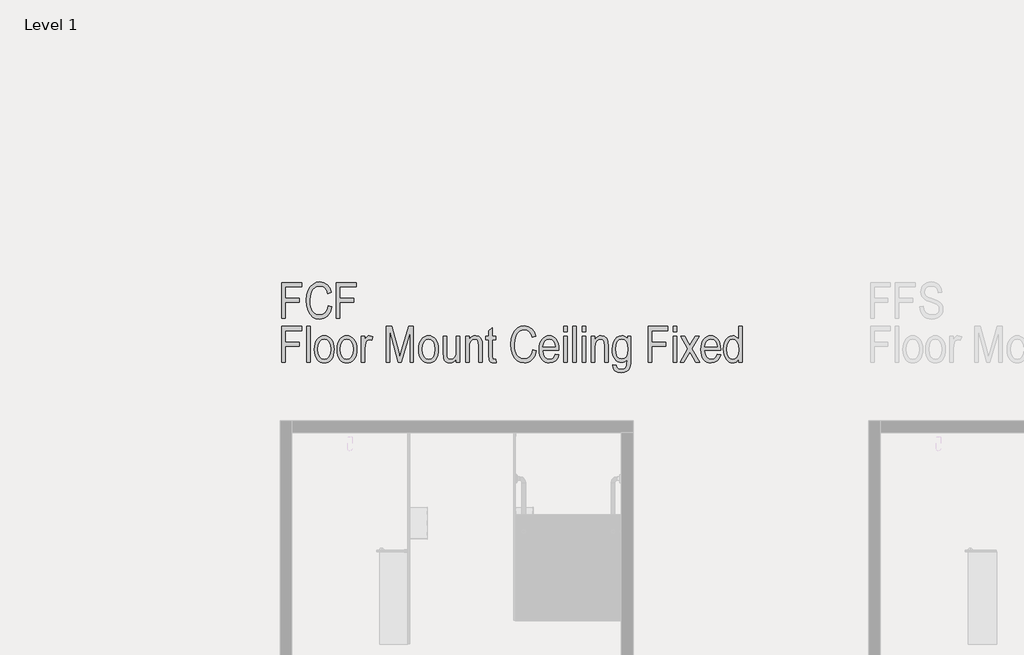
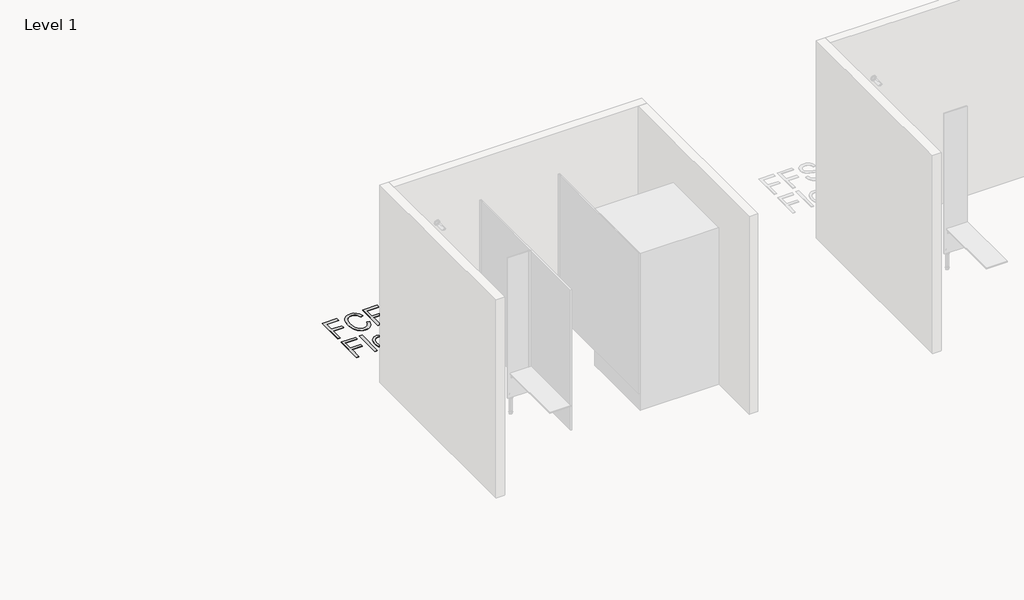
# One storey, part 10 of 21: 1 proxy.
"""IFC4 building model written with IfcOpenShell, lengths in millimetres."""

from ifc_helpers import new_model, si_unit, origin, origin_with_axes, place, context, project, spatial, polyline, outline, extrude, element, save

model = new_model("IFC4")

# Units and contexts
model_context = context("Model", 3, world=origin())
ifc_project = project(units=[si_unit("LENGTHUNIT", "METRE", prefix="MILLI")], contexts=[model_context])

# Site, building, storey
site = spatial("IfcSite", under=ifc_project)
building = spatial("IfcBuilding", under=site)
storey = spatial("IfcBuildingStorey", under=building, Name="Level 1", Elevation=0.0)

# Proxy
placement = place(None, origin())
element("IfcBuildingElementProxy", 1, Name="Arial Narrow-300mm", ObjectType="Arial Narrow-300mm", at=placement, inside=storey, context=model_context, shape_type="SweptSolid", body=[
    extrude(outline(polyline([(-11218.8829157, 11023.6753804), (-11218.8829157, 11328.8527498), (-11051.5275841, 11328.8527498), (-11051.5275841, 11294.3972403), (-11189.3496219, 11294.3972403), (-11189.3496219, 11195.9529276), (-11071.2164466, 11195.9529276), (-11071.2164466, 11161.4974182), (-11189.3496219, 11161.4974182), (-11189.3496219, 11023.6753804), (-11218.8829157, 11023.6753804)])), origin_with_axes(), (0.0, 0.0, 1.0), 5.0),
    extrude(outline(polyline([(-10825.1056649, 11131.9641244), (-10795.5723711, 11122.1196931), (-10810.3967002, 11076.6564944), (-10820.8516016, 11058.8783552), (-10833.3349942, 11044.4025228), (-10847.5680806, 11033.1809287), (-10863.2720635, 11025.1655043), (-10880.4469428, 11020.3562496), (-10899.0927187, 11018.7531648), (-10930.6256626, 11022.9831938), (-10957.2363908, 11035.673281), (-10979.1940872, 11057.7175006), (-10996.7679352, 11090.0099271), (-11008.3043781, 11130.8008664), (-11012.149859, 11178.3406248), (-11008.3139918, 11224.7651938), (-10996.80639, 11263.4411186), (-10978.7518568, 11293.9838511), (-10955.2751955, 11316.0088434), (-10927.5588915, 11329.3334349), (-10896.7854301, 11333.7749654), (-10863.9065678, 11328.1509495), (-10836.0268308, 11311.2789018), (-10814.4536826, 11283.5049155), (-10800.4945867, 11245.175084), (-10830.0278805, 11235.3306527), (-10840.6125669, 11263.3257541), (-10855.4465097, 11283.3222552), (-10874.529709, 11295.3201558), (-10897.8621647, 11299.319456), (-10921.5407138, 11296.1277068), (-10941.8160122, 11286.5524592), (-10958.524627, 11270.2187788), (-10971.5031252, 11246.7517312), (-10979.8382052, 11216.132089), (-10982.6165652, 11178.3406248), (-10981.203351, 11149.0284462), (-10976.9637082, 11123.6194307), (-10969.8976369, 11102.1135784), (-10960.0051371, 11084.5108893), (-10947.7717008, 11070.8161702), (-10933.6828199, 11061.034228), (-10917.7384945, 11055.1650627), (-10899.9387245, 11053.2086742), (-10874.0874787, 11058.092435), (-10852.0624865, 11072.7437175), (-10835.2673483, 11097.3163409), (-10825.1056649, 11131.9641244)])), origin_with_axes(), (0.0, 0.0, 1.0), 5.0),
    extrude(outline(polyline([(-10756.194646, 11023.6753804), (-10756.194646, 11328.8527498), (-10588.8393144, 11328.8527498), (-10588.8393144, 11294.3972403), (-10726.6613522, 11294.3972403), (-10726.6613522, 11195.9529276), (-10608.5281769, 11195.9529276), (-10608.5281769, 11161.4974182), (-10726.6613522, 11161.4974182), (-10726.6613522, 11023.6753804), (-10756.194646, 11023.6753804)])), origin_with_axes(), (0.0, 0.0, 1.0), 5.0),
    extrude(outline(polyline([(-11218.8829157, 10650.573168), (-11218.8829157, 10955.7505374), (-11051.5275841, 10955.7505374), (-11051.5275841, 10921.2950279), (-11189.3496219, 10921.2950279), (-11189.3496219, 10822.8507152), (-11071.2164466, 10822.8507152), (-11071.2164466, 10788.3952058), (-11189.3496219, 10788.3952058), (-11189.3496219, 10650.573168), (-11218.8829157, 10650.573168)])), origin_with_axes(), (0.0, 0.0, 1.0), 5.0),
    extrude(outline(polyline([(-11007.2276434, 10650.573168), (-11007.2276434, 10955.7505374), (-10977.6943496, 10955.7505374), (-10977.6943496, 10650.573168), (-11007.2276434, 10650.573168)])), origin_with_axes(), (0.0, 0.0, 1.0), 5.0),
    extrude(outline(polyline([(-10943.2388401, 10761.3230198), (-10941.75833, 10788.2149489), (-10937.3167994, 10811.5930697), (-10929.9142486, 10831.4573823), (-10919.5506774, 10847.8078867), (-10906.9182724, 10860.5772869), (-10892.7092203, 10869.6982871), (-10876.9235209, 10875.1708872), (-10859.5611743, 10876.9950872), (-10842.448784, 10875.1708872), (-10826.7976765, 10869.6982871), (-10812.6078518, 10860.5772869), (-10799.8793098, 10847.8078867), (-10789.3811467, 10831.6015879), (-10781.8824588, 10812.1698919), (-10777.3832461, 10789.5127987), (-10775.8835085, 10763.6303084), (-10777.3568084, 10735.7289405), (-10781.7767081, 10711.629792), (-10789.1432076, 10691.3328628), (-10799.4563069, 10674.8381529), (-10812.0526604, 10662.0687527), (-10826.2689229, 10652.9477525), (-10842.1050942, 10647.4751524), (-10859.5611743, 10645.6509524), (-10876.7672982, 10647.4799593), (-10892.4688777, 10652.9669799), (-10906.6659127, 10662.1120143), (-10919.3584033, 10674.9150625), (-10929.8060944, 10691.2896011), (-10937.2687309, 10711.1491069), (-10941.7463128, 10734.4935798), (-10943.2388401, 10761.3230198)]), holes=[polyline([(-10913.7055463, 10761.3999294), (-10909.7543146, 10723.3681227), (-10897.9006196, 10696.4882107), (-10880.2017934, 10680.5102373), (-10858.7151685, 10675.1842462), (-10838.3533468, 10680.5583058), (-10821.1063647, 10696.6804848), (-10809.3391929, 10723.6084652), (-10805.4168023, 10761.3999294), (-10809.368034, 10799.3163717), (-10821.2217291, 10826.1578289), (-10838.9205553, 10842.1358023), (-10860.4071801, 10847.4617934), (-10880.9132074, 10842.1069612), (-10898.1313484, 10826.0424644), (-10909.8119968, 10799.1721662), (-10913.7055463, 10761.3999294)])]), origin_with_axes(), (0.0, 0.0, 1.0), 5.0),
    extrude(outline(polyline([(-10751.2724304, 10761.3230198), (-10749.7919202, 10788.2149489), (-10745.3503897, 10811.5930697), (-10737.9478388, 10831.4573823), (-10727.5842676, 10847.8078867), (-10714.9518627, 10860.5772869), (-10700.7428105, 10869.6982871), (-10684.9571111, 10875.1708872), (-10667.5947646, 10876.9950872), (-10650.4823743, 10875.1708872), (-10634.8312667, 10869.6982871), (-10620.641442, 10860.5772869), (-10607.9129, 10847.8078867), (-10597.414737, 10831.6015879), (-10589.9160491, 10812.1698919), (-10585.4168363, 10789.5127987), (-10583.9170988, 10763.6303084), (-10585.3903987, 10735.7289405), (-10589.8102984, 10711.629792), (-10597.1767978, 10691.3328628), (-10607.4898971, 10674.8381529), (-10620.0862507, 10662.0687527), (-10634.3025131, 10652.9477525), (-10650.1386844, 10647.4751524), (-10667.5947646, 10645.6509524), (-10684.8008885, 10647.4799593), (-10700.5024679, 10652.9669799), (-10714.699503, 10662.1120143), (-10727.3919936, 10674.9150625), (-10737.8396847, 10691.2896011), (-10745.3023212, 10711.1491069), (-10749.7799031, 10734.4935798), (-10751.2724304, 10761.3230198)]), holes=[polyline([(-10721.7391366, 10761.3999294), (-10717.7879049, 10723.3681227), (-10705.9342098, 10696.4882107), (-10688.2353836, 10680.5102373), (-10666.7487588, 10675.1842462), (-10646.386937, 10680.5583058), (-10629.1399549, 10696.6804848), (-10617.3727832, 10723.6084652), (-10613.4503926, 10761.3999294), (-10617.4016243, 10799.3163717), (-10629.2553193, 10826.1578289), (-10646.9541455, 10842.1358023), (-10668.4407704, 10847.4617934), (-10688.9467976, 10842.1069612), (-10706.1649386, 10826.0424644), (-10717.8455871, 10799.1721662), (-10721.7391366, 10761.3999294)])]), origin_with_axes(), (0.0, 0.0, 1.0), 5.0),
    extrude(outline(polyline([(-10544.5393737, 10650.573168), (-10544.5393737, 10872.0728716), (-10515.0060799, 10872.0728716), (-10515.0060799, 10842.693397), (-10505.1231938, 10859.9596065), (-10496.0863135, 10870.2270407), (-10486.9340688, 10875.3030756), (-10476.7050895, 10876.9950872), (-10461.5538945, 10874.5339794), (-10446.095061, 10867.1506559), (-10455.9394923, 10837.6173621), (-10478.8585588, 10842.5395778), (-10488.5011023, 10840.7802702), (-10497.2784126, 10835.5023476), (-10504.3829387, 10827.0711306), (-10509.0071296, 10815.8519399), (-10515.0060799, 10769.167801), (-10515.0060799, 10650.573168), (-10544.5393737, 10650.573168)])), origin_with_axes(), (0.0, 0.0, 1.0), 5.0),
    extrude(outline(polyline([(-10332.8841014, 10650.573168), (-10332.8841014, 10955.7505374), (-10286.0461432, 10955.7505374), (-10228.6715672, 10739.6345072), (-10217.212034, 10694.4885606), (-10203.8297602, 10743.4030785), (-10143.7633475, 10955.7505374), (-10101.5399665, 10955.7505374), (-10101.5399665, 10650.573168), (-10131.0732604, 10650.573168), (-10131.0732604, 10910.8353197), (-10204.2912179, 10650.573168), (-10230.9019462, 10650.573168), (-10303.3508076, 10925.4481474), (-10303.3508076, 10650.573168), (-10332.8841014, 10650.573168)])), origin_with_axes(), (0.0, 0.0, 1.0), 5.0),
    extrude(outline(polyline([(-10057.2400258, 10761.3230198), (-10055.7595157, 10788.2149489), (-10051.3179851, 10811.5930697), (-10043.9154343, 10831.4573823), (-10033.5518631, 10847.8078867), (-10020.9194581, 10860.5772869), (-10006.7104059, 10869.6982871), (-9990.9247066, 10875.1708872), (-9973.56236, 10876.9950872), (-9956.4499697, 10875.1708872), (-9940.7988622, 10869.6982871), (-9926.6090374, 10860.5772869), (-9913.8804955, 10847.8078867), (-9903.3823324, 10831.6015879), (-9895.8836445, 10812.1698919), (-9891.3844318, 10789.5127987), (-9889.8846942, 10763.6303084), (-9891.3579941, 10735.7289405), (-9895.7778938, 10711.629792), (-9903.1443933, 10691.3328628), (-9913.4574925, 10674.8381529), (-9926.0538461, 10662.0687527), (-9940.2701086, 10652.9477525), (-9956.1062799, 10647.4751524), (-9973.56236, 10645.6509524), (-9990.7684839, 10647.4799593), (-10006.4700634, 10652.9669799), (-10020.6670984, 10662.1120143), (-10033.359589, 10674.9150625), (-10043.8072801, 10691.2896011), (-10051.2699166, 10711.1491069), (-10055.7474985, 10734.4935798), (-10057.2400258, 10761.3230198)]), holes=[polyline([(-10027.706732, 10761.3999294), (-10023.7555003, 10723.3681227), (-10011.9018052, 10696.4882107), (-9994.2029791, 10680.5102373), (-9972.7163542, 10675.1842462), (-9952.3545325, 10680.5583058), (-9935.1075504, 10696.6804848), (-9923.3403786, 10723.6084652), (-9919.417988, 10761.3999294), (-9923.3692197, 10799.3163717), (-9935.2229148, 10826.1578289), (-9952.921741, 10842.1358023), (-9974.4083658, 10847.4617934), (-9994.9143931, 10842.1069612), (-10012.1325341, 10826.0424644), (-10023.8131825, 10799.1721662), (-10027.706732, 10761.3999294)])]), origin_with_axes(), (0.0, 0.0, 1.0), 5.0),
    extrude(outline(polyline([(-9737.2960095, 10650.573168), (-9737.2960095, 10680.4910099), (-9748.2556303, 10665.272519), (-9760.9841723, 10654.3801942), (-9775.4816355, 10647.8332628), (-9791.74802, 10645.6509524), (-9810.5716493, 10648.5446768), (-9826.4342583, 10657.2258501), (-9838.4321589, 10670.3389402), (-9845.6616631, 10686.528415), (-9850.5069692, 10734.8661108), (-9850.5069692, 10872.0728716), (-9820.9736753, 10872.0728716), (-9820.9736753, 10747.4792883), (-9817.6281069, 10701.0643331), (-9812.8500968, 10690.4988741), (-9805.2072034, 10682.2599312), (-9795.497364, 10676.9531674), (-9784.5185158, 10675.1842462), (-9764.9065629, 10679.7795959), (-9749.1400909, 10693.5656452), (-9740.2570299, 10716.023254), (-9737.2960095, 10751.7093174), (-9737.2960095, 10872.0728716), (-9707.7627157, 10872.0728716), (-9707.7627157, 10650.573168), (-9737.2960095, 10650.573168)])), origin_with_axes(), (0.0, 0.0, 1.0), 5.0),
    extrude(outline(polyline([(-9658.5405594, 10650.573168), (-9658.5405594, 10872.0728716), (-9629.0072656, 10872.0728716), (-9629.0072656, 10843.4624932), (-9618.4898751, 10858.1810716), (-9605.8574702, 10868.6503935), (-9591.1677329, 10874.9089138), (-9574.4783455, 10876.9950872), (-9548.9828067, 10871.2653206), (-9530.0630404, 10856.2679448), (-9519.3341485, 10832.195234), (-9515.796306, 10786.7031942), (-9515.796306, 10650.573168), (-9545.3295998, 10650.573168), (-9545.3295998, 10787.3184711), (-9549.3673548, 10823.5429018), (-9554.5491404, 10833.6949716), (-9562.0189872, 10841.2321142), (-9571.3250511, 10845.9043736), (-9582.0154882, 10847.4617934), (-9601.3005752, 10843.2798329), (-9616.2402688, 10830.7339512), (-9625.8155164, 10808.0359998), (-9629.0072656, 10773.39783), (-9629.0072656, 10650.573168), (-9658.5405594, 10650.573168)])), origin_with_axes(), (0.0, 0.0, 1.0), 5.0),
    extrude(outline(polyline([(-9402.5853464, 10675.1842462), (-9397.6631307, 10645.6509524), (-9419.9669203, 10645.6509524), (-9434.0029259, 10647.2564407), (-9445.0394562, 10652.0729056), (-9453.0765114, 10659.6773442), (-9458.1140915, 10669.6467536), (-9461.651934, 10714.0236039), (-9461.651934, 10842.5395778), (-9486.2630122, 10842.5395778), (-9486.2630122, 10872.0728716), (-9461.651934, 10872.0728716), (-9461.651934, 10921.2950279), (-9432.1186402, 10945.9061061), (-9432.1186402, 10872.0728716), (-9402.5853464, 10872.0728716), (-9402.5853464, 10842.5395778), (-9432.1186402, 10842.5395778), (-9432.1186402, 10707.2555574), (-9429.5037131, 10683.0290273), (-9424.1584946, 10677.1454415), (-9415.5061624, 10675.1842462), (-9402.5853464, 10675.1842462)])), origin_with_axes(), (0.0, 0.0, 1.0), 5.0),
    extrude(outline(polyline([(-9087.5635457, 10758.861912), (-9058.0302519, 10749.0174807), (-9072.854581, 10703.554282), (-9083.3094824, 10685.7761428), (-9095.792875, 10671.3003104), (-9110.0259614, 10660.0787163), (-9125.7299443, 10652.0632919), (-9142.9048237, 10647.2540372), (-9161.5505995, 10645.6509524), (-9193.0835434, 10649.8809814), (-9219.6942717, 10662.5710686), (-9241.651968, 10684.6152882), (-9259.225816, 10716.9077147), (-9270.7622589, 10757.698654), (-9274.6077399, 10805.2384124), (-9270.7718726, 10851.6629814), (-9259.2642708, 10890.3389062), (-9241.2097377, 10920.8816387), (-9217.7330764, 10942.906631), (-9190.0167723, 10956.2312225), (-9159.2433109, 10960.672753), (-9126.3644487, 10955.0487371), (-9098.4847117, 10938.1766894), (-9076.9115635, 10910.4027031), (-9062.9524676, 10872.0728716), (-9092.4857614, 10862.2284403), (-9103.0704477, 10890.2235417), (-9117.9043905, 10910.2200428), (-9136.9875898, 10922.2179434), (-9160.3200456, 10926.2172436), (-9183.9985946, 10923.0254944), (-9204.273893, 10913.4502468), (-9220.9825078, 10897.1165664), (-9233.9610061, 10873.6495188), (-9242.296086, 10843.0298766), (-9245.074446, 10805.2384124), (-9243.6612318, 10775.9262338), (-9239.421589, 10750.5172183), (-9232.3555178, 10729.011366), (-9222.463018, 10711.4086769), (-9210.2295817, 10697.7139578), (-9196.1407008, 10687.9320156), (-9180.1963753, 10682.0628503), (-9162.3966053, 10680.1064618), (-9136.5453595, 10684.9902226), (-9114.5203673, 10699.6415051), (-9097.7252292, 10724.2141285), (-9087.5635457, 10758.861912)])), origin_with_axes(), (0.0, 0.0, 1.0), 5.0),
    extrude(outline(polyline([(-8895.597136, 10719.4841869), (-8866.0638422, 10714.5619713), (-8877.2734192, 10684.6056745), (-8894.9049494, 10663.0325263), (-8918.2470188, 10649.9963459), (-8946.5882136, 10645.6509524), (-8965.0801701, 10647.4799593), (-8981.7166822, 10652.9669799), (-8996.4977496, 10662.1120143), (-9009.4233725, 10674.9150625), (-9019.9215356, 10691.1742367), (-9027.4202234, 10710.6876492), (-9031.9194362, 10733.4552999), (-9033.4191737, 10759.4771889), (-9031.9122259, 10786.4268002), (-9027.3913823, 10809.9779677), (-9019.8566431, 10830.1306914), (-9009.3080081, 10846.8849713), (-8996.4520845, 10860.058147), (-8981.9954795, 10869.4675582), (-8965.9381931, 10875.113205), (-8948.2802252, 10876.9950872), (-8931.3625124, 10875.1780975), (-8915.9108892, 10869.7271282), (-8901.9253556, 10860.6421794), (-8889.4059116, 10847.9232511), (-8879.0928123, 10831.7626174), (-8871.7263129, 10812.3525522), (-8867.3064132, 10789.6930556), (-8865.8331133, 10763.7841276), (-8866.0638422, 10753.9396963), (-9003.8858799, 10753.9396963), (-8998.3387736, 10719.6764609), (-8985.696755, 10695.026928), (-8967.7287452, 10680.1449166), (-8946.2036655, 10675.1842462), (-8929.3989136, 10677.9529925), (-8915.3629081, 10686.2592314), (-8904.0956489, 10700.1029628), (-8895.597136, 10719.4841869)]), holes=[polyline([(-9001.8862298, 10783.4729902), (-8895.597136, 10783.4729902), (-8899.9040746, 10808.7378001), (-8908.517952, 10826.6961962), (-8926.1687096, 10842.2703941), (-8948.0494963, 10847.4617934), (-8968.1421344, 10843.1356273), (-8985.0430232, 10830.1571291), (-8996.906332, 10809.8337622), (-9001.8862298, 10783.4729902)])]), origin_with_axes(), (0.0, 0.0, 1.0), 5.0),
    extrude(outline(polyline([(-8826.6861171, 10650.573168), (-8826.6861171, 10872.0728716), (-8797.1528233, 10872.0728716), (-8797.1528233, 10650.573168), (-8826.6861171, 10650.573168)])), origin_with_axes(), (0.0, 0.0, 1.0), 5.0),
    extrude(outline(polyline([(-8826.6861171, 10911.4505967), (-8826.6861171, 10955.7505374), (-8797.1528233, 10955.7505374), (-8797.1528233, 10911.4505967), (-8826.6861171, 10911.4505967)])), origin_with_axes(), (0.0, 0.0, 1.0), 5.0),
    extrude(outline(polyline([(-8747.9306669, 10650.573168), (-8747.9306669, 10955.7505374), (-8718.3973731, 10955.7505374), (-8718.3973731, 10650.573168), (-8747.9306669, 10650.573168)])), origin_with_axes(), (0.0, 0.0, 1.0), 5.0),
    extrude(outline(polyline([(-8669.1752167, 10650.573168), (-8669.1752167, 10872.0728716), (-8639.6419229, 10872.0728716), (-8639.6419229, 10650.573168), (-8669.1752167, 10650.573168)])), origin_with_axes(), (0.0, 0.0, 1.0), 5.0),
    extrude(outline(polyline([(-8669.1752167, 10911.4505967), (-8669.1752167, 10955.7505374), (-8639.6419229, 10955.7505374), (-8639.6419229, 10911.4505967), (-8669.1752167, 10911.4505967)])), origin_with_axes(), (0.0, 0.0, 1.0), 5.0),
    extrude(outline(polyline([(-8590.4197666, 10650.573168), (-8590.4197666, 10872.0728716), (-8560.8864728, 10872.0728716), (-8560.8864728, 10843.4624932), (-8550.3690823, 10858.1810716), (-8537.7366774, 10868.6503935), (-8523.0469401, 10874.9089138), (-8506.3575527, 10876.9950872), (-8480.8620139, 10871.2653206), (-8461.9422476, 10856.2679448), (-8451.2133557, 10832.195234), (-8447.6755132, 10786.7031942), (-8447.6755132, 10650.573168), (-8477.208807, 10650.573168), (-8477.208807, 10787.3184711), (-8481.246562, 10823.5429018), (-8486.4283476, 10833.6949716), (-8493.8981944, 10841.2321142), (-8503.2042583, 10845.9043736), (-8513.8946954, 10847.4617934), (-8533.1797824, 10843.2798329), (-8548.119476, 10830.7339512), (-8557.6947236, 10808.0359998), (-8560.8864728, 10773.39783), (-8560.8864728, 10650.573168), (-8590.4197666, 10650.573168)])), origin_with_axes(), (0.0, 0.0, 1.0), 5.0),
    extrude(outline(polyline([(-8408.2977881, 10630.8843055), (-8378.7644943, 10625.9620898), (-8374.57292, 10610.7435989), (-8366.1513167, 10600.0050933), (-8353.576594, 10593.6312086), (-8336.9256614, 10591.5065804), (-8318.621172, 10593.9003923), (-8304.469802, 10601.081828), (-8294.3177323, 10612.9932053), (-8288.0111435, 10629.5768419), (-8285.2423972, 10678.1068117), (-8295.7886288, 10666.1089111), (-8307.5846416, 10657.4950337), (-8320.688118, 10652.3036344), (-8335.1567401, 10650.573168), (-8350.6203805, 10652.2940207), (-8364.7092614, 10657.4565789), (-8377.4233828, 10666.0608426), (-8388.7627448, 10678.1068117), (-8399.4627956, 10695.2913048), (-8407.105689, 10715.1580208), (-8411.691425, 10737.7069598), (-8413.2200037, 10762.9381218), (-8410.4800985, 10796.3745788), (-8402.260383, 10825.311823), (-8389.5895232, 10848.4520048), (-8373.4961854, 10864.4972741), (-8354.6244875, 10873.8706339), (-8333.6185478, 10876.9950872), (-8318.1020321, 10875.1108015), (-8304.0083443, 10869.4579445), (-8291.3951668, 10860.0365162), (-8280.3201816, 10846.8465165), (-8280.3201816, 10872.0728716), (-8255.7091034, 10872.0728716), (-8255.7091034, 10681.4139253), (-8257.7760494, 10637.8061712), (-8263.9768875, 10608.8112447), (-8274.878826, 10589.4011796), (-8291.0490735, 10574.5480093), (-8311.7666022, 10565.1169673), (-8336.3103844, 10561.9732866), (-8367.2568925, 10566.5397952), (-8390.1086631, 10580.2393212), (-8404.0581453, 10602.0335845), (-8408.2977881, 10630.8843055)]), holes=[polyline([(-8383.6867099, 10765.2454104), (-8379.9565934, 10726.8675103), (-8368.7662438, 10700.4875109), (-8352.1729934, 10685.2017241), (-8332.2341746, 10680.1064618), (-8312.2376736, 10685.0959734), (-8295.4713766, 10700.064508), (-8284.1079803, 10725.9157538), (-8280.3201816, 10763.5533988), (-8284.2137311, 10800.6238353), (-8295.8943795, 10826.7731058), (-8313.1317479, 10842.2896215), (-8333.6954574, 10847.4617934), (-8352.3941086, 10842.2896215), (-8368.6508793, 10826.7731058), (-8379.9277523, 10801.0468382), (-8383.6867099, 10765.2454104)])]), origin_with_axes(), (0.0, 0.0, 1.0), 5.0),
    extrude(outline(polyline([(-8108.0426344, 10650.573168), (-8108.0426344, 10955.7505374), (-7940.6873028, 10955.7505374), (-7940.6873028, 10921.2950279), (-8078.5093405, 10921.2950279), (-8078.5093405, 10822.8507152), (-7960.3761653, 10822.8507152), (-7960.3761653, 10788.3952058), (-8078.5093405, 10788.3952058), (-8078.5093405, 10650.573168), (-8108.0426344, 10650.573168)])), origin_with_axes(), (0.0, 0.0, 1.0), 5.0),
    extrude(outline(polyline([(-7896.3873621, 10650.573168), (-7896.3873621, 10872.0728716), (-7866.8540682, 10872.0728716), (-7866.8540682, 10650.573168), (-7896.3873621, 10650.573168)])), origin_with_axes(), (0.0, 0.0, 1.0), 5.0),
    extrude(outline(polyline([(-7896.3873621, 10911.4505967), (-7896.3873621, 10955.7505374), (-7866.8540682, 10955.7505374), (-7866.8540682, 10911.4505967), (-7896.3873621, 10911.4505967)])), origin_with_axes(), (0.0, 0.0, 1.0), 5.0),
    extrude(outline(polyline([(-7837.3207744, 10650.573168), (-7770.4094056, 10765.6299585), (-7832.3985588, 10872.0728716), (-7798.8659648, 10872.0728716), (-7768.1021171, 10819.2359631), (-7753.6431086, 10794.3172465), (-7740.4915637, 10816.8517649), (-7708.4202525, 10872.0728716), (-7674.8876585, 10872.0728716), (-7736.8768116, 10765.5530489), (-7669.9654428, 10650.573168), (-7703.4980369, 10650.573168), (-7743.7986774, 10719.9456446), (-7753.6431086, 10736.7119416), (-7803.7881804, 10650.573168), (-7837.3207744, 10650.573168)])), origin_with_axes(), (0.0, 0.0, 1.0), 5.0),
    extrude(outline(polyline([(-7522.2989738, 10719.4841869), (-7492.76568, 10714.5619713), (-7503.975257, 10684.6056745), (-7521.6067872, 10663.0325263), (-7544.9488567, 10649.9963459), (-7573.2900514, 10645.6509524), (-7591.782008, 10647.4799593), (-7608.41852, 10652.9669799), (-7623.1995875, 10662.1120143), (-7636.1252103, 10674.9150625), (-7646.6233734, 10691.1742367), (-7654.1220613, 10710.6876492), (-7658.621274, 10733.4552999), (-7660.1210116, 10759.4771889), (-7658.6140637, 10786.4268002), (-7654.0932202, 10809.9779677), (-7646.5584809, 10830.1306914), (-7636.0098459, 10846.8849713), (-7623.1539224, 10860.058147), (-7608.6973174, 10869.4675582), (-7592.6400309, 10875.113205), (-7574.982063, 10876.9950872), (-7558.0643502, 10875.1780975), (-7542.612727, 10869.7271282), (-7528.6271934, 10860.6421794), (-7516.1077494, 10847.9232511), (-7505.7946502, 10831.7626174), (-7498.4281507, 10812.3525522), (-7494.008251, 10789.6930556), (-7492.5349511, 10763.7841276), (-7492.76568, 10753.9396963), (-7630.5877178, 10753.9396963), (-7625.0406115, 10719.6764609), (-7612.3985928, 10695.026928), (-7594.430583, 10680.1449166), (-7572.9055033, 10675.1842462), (-7556.1007515, 10677.9529925), (-7542.0647459, 10686.2592314), (-7530.7974867, 10700.1029628), (-7522.2989738, 10719.4841869)]), holes=[polyline([(-7628.5880677, 10783.4729902), (-7522.2989738, 10783.4729902), (-7526.6059125, 10808.7378001), (-7535.2197898, 10826.6961962), (-7552.8705475, 10842.2703941), (-7574.7513342, 10847.4617934), (-7594.8439722, 10843.1356273), (-7611.744861, 10830.1571291), (-7623.6081698, 10809.8337622), (-7628.5880677, 10783.4729902)])]), origin_with_axes(), (0.0, 0.0, 1.0), 5.0),
    extrude(outline(polyline([(-7340.1769953, 10650.573168), (-7340.1769953, 10677.3377155), (-7349.6657196, 10663.7150992), (-7361.5194146, 10653.7649172), (-7375.0843488, 10647.6794436), (-7389.7067901, 10645.6509524), (-7405.0935208, 10647.5472552), (-7419.4131306, 10653.2361636), (-7432.6656193, 10662.7176776), (-7444.8509872, 10675.9917972), (-7455.0463186, 10692.7028154), (-7462.3286981, 10712.4950252), (-7466.6981259, 10735.3684267), (-7468.1546018, 10761.3230198), (-7465.5204473, 10796.1534636), (-7457.617984, 10825.2733682), (-7445.3220586, 10848.15398), (-7429.5075181, 10864.2665452), (-7410.9626862, 10873.8129517), (-7390.4758863, 10876.9950872), (-7375.6515572, 10875.0723467), (-7361.9424176, 10869.3041253), (-7349.9252895, 10860.0941984), (-7340.1769953, 10847.8463415), (-7340.1769953, 10955.7505374), (-7310.6437015, 10955.7505374), (-7310.6437015, 10650.573168), (-7340.1769953, 10650.573168)]), holes=[polyline([(-7438.621308, 10761.0922909), (-7434.8815778, 10723.098939), (-7423.662387, 10696.3343915), (-7407.4632985, 10680.4717825), (-7388.7838747, 10675.1842462), (-7370.4024757, 10680.2602811), (-7354.6360037, 10695.4883857), (-7343.7917474, 10720.9839245), (-7340.1769953, 10756.8622619), (-7343.7917474, 10797.7012697), (-7354.6360037, 10825.7732808), (-7370.9792978, 10842.0396652), (-7391.0911633, 10847.4617934), (-7409.1937649, 10842.2511667), (-7424.5853025, 10826.6192866), (-7435.1123066, 10799.8162843), (-7438.621308, 10761.0922909)])]), origin_with_axes(), (0.0, 0.0, 1.0), 5.0),
])

save(model, "model.ifc")
